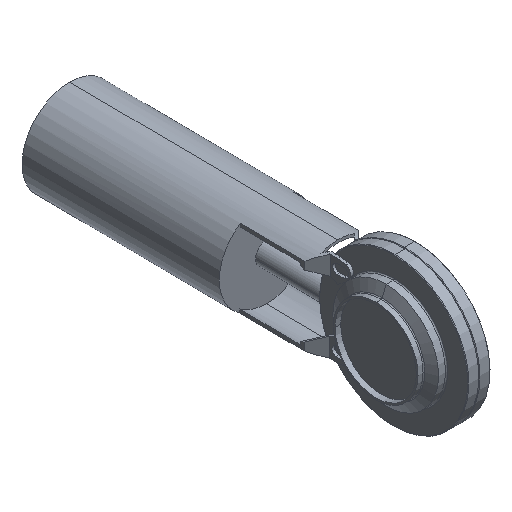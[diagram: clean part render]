
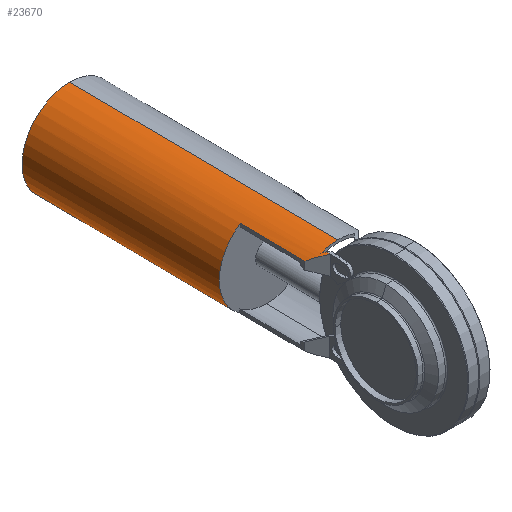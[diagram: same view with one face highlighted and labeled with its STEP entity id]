
A CAD part, isometric view. The second image highlights one B-rep face of the part: STEP entity #23670.
In plain terms, the highlighted cylindrical face has radius 42.5 mm (diameter 85 mm), a partial arc.
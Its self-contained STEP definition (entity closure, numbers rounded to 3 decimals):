
#990=CARTESIAN_POINT('',(-63.381,-188.914,
-44.596));
#1000=VERTEX_POINT('',#990);
#1030=CARTESIAN_POINT('',(-28.306,-212.914,
-44.596));
#1040=DIRECTION('',(0.,0.,1.));
#1050=DIRECTION('',(1.,0.,0.));
#1060=AXIS2_PLACEMENT_3D('',#1030,#1040,#1050);
#1070=CIRCLE('',#1060,42.5);
#1080=CARTESIAN_POINT('',(6.769,-188.914,
-44.596));
#1090=VERTEX_POINT('',#1080);
#1100=EDGE_CURVE('',#1090,#1000,#1070,.T.);
#1720=CARTESIAN_POINT('',(12.314,-200.414,
24.897));
#1730=VERTEX_POINT('',#1720);
#1760=CARTESIAN_POINT('',(12.314,-200.414,
-241.458));
#1770=DIRECTION('',(0.,0.,1.));
#1780=VECTOR('',#1770,1.);
#1790=LINE('',#1760,#1780);
#4150=CARTESIAN_POINT('',(12.314,-200.414,
21.362));
#4160=VERTEX_POINT('',#4150);
#4190=CARTESIAN_POINT('',(-28.306,-212.914,
33.862));
#4200=DIRECTION('',(0.,-0.707,-0.707));
#4210=DIRECTION('',(0.,0.707,-0.707));
#4220=AXIS2_PLACEMENT_3D('',#4190,#4200,#4210);
#4230=ELLIPSE('',#4220,60.104,42.5);
#4240=CARTESIAN_POINT('',(11.437,-197.856,
18.804));
#4250=VERTEX_POINT('',#4240);
#4260=EDGE_CURVE('',#4250,#4160,#4230,.T.);
#4730=CARTESIAN_POINT('',(6.769,-188.914,
13.397));
#4740=VERTEX_POINT('',#4730);
#5020=CARTESIAN_POINT('',(6.769,-188.914,
-241.458));
#5030=DIRECTION('',(0.,0.,1.));
#5040=VECTOR('',#5030,1.);
#5050=LINE('',#5020,#5040);
#5060=EDGE_CURVE('',#1090,#4740,#5050,.T.);
#13540=CARTESIAN_POINT('',(-28.306,-212.914,
18.804));
#13550=DIRECTION('',(0.,0.,1.));
#13560=DIRECTION('',(1.,0.,0.));
#13570=AXIS2_PLACEMENT_3D('',#13540,#13550,#13560);
#13580=CIRCLE('',#13570,42.5);
#13590=CARTESIAN_POINT('',(14.194,-212.914,
18.804));
#13600=VERTEX_POINT('',#13590);
#13610=EDGE_CURVE('',#13600,#4250,#13580,.T.);
#17310=EDGE_CURVE('',#4160,#1730,#1790,.T.);
#17430=CARTESIAN_POINT('',(-28.306,-212.914,
37.397));
#17440=DIRECTION('',(0.,0.707,0.707));
#17450=DIRECTION('',(0.,-0.707,0.707));
#17460=AXIS2_PLACEMENT_3D('',#17430,#17440,#17450);
#17470=ELLIPSE('',#17460,60.104,42.5);
#17480=EDGE_CURVE('',#1730,#4740,#17470,.T.);
#22250=CARTESIAN_POINT('',(-63.381,-188.914,
-241.458));
#22260=DIRECTION('',(0.,0.,1.));
#22270=VECTOR('',#22260,1.);
#22280=LINE('',#22250,#22270);
#22290=CARTESIAN_POINT('',(-63.381,-188.914,
13.397));
#22300=VERTEX_POINT('',#22290);
#22310=EDGE_CURVE('',#1000,#22300,#22280,.T.);
#22690=CARTESIAN_POINT('',(-28.306,-212.914,
-44.596));
#22700=DIRECTION('',(0.,0.,1.));
#22710=DIRECTION('',(-1.,0.,0.));
#22720=AXIS2_PLACEMENT_3D('',#22690,#22700,#22710);
#22730=CYLINDRICAL_SURFACE('',#22720,42.5);
#22740=ORIENTED_EDGE('',*,*,#4260,.F.);
#22750=ORIENTED_EDGE('',*,*,#17310,.F.);
#22760=ORIENTED_EDGE('',*,*,#17480,.F.);
#22770=ORIENTED_EDGE('',*,*,#5060,.T.);
#22780=ORIENTED_EDGE('',*,*,#1100,.F.);
#22790=ORIENTED_EDGE('',*,*,#22310,.F.);
#22800=CARTESIAN_POINT('',(-28.306,-212.914,
37.397));
#22810=DIRECTION('',(0.,-0.707,-0.707));
#22820=DIRECTION('',(0.,-0.707,0.707));
#22830=AXIS2_PLACEMENT_3D('',#22800,#22810,#22820);
#22840=ELLIPSE('',#22830,60.104,42.5);
#22850=CARTESIAN_POINT('',(-68.926,-200.414,
24.897));
#22860=VERTEX_POINT('',#22850);
#22870=EDGE_CURVE('',#22860,#22300,#22840,.T.);
#22880=ORIENTED_EDGE('',*,*,#22870,.T.);
#22890=CARTESIAN_POINT('',(-68.926,-200.414,
-241.458));
#22900=DIRECTION('',(0.,0.,1.));
#22910=VECTOR('',#22900,1.);
#22920=LINE('',#22890,#22910);
#22930=CARTESIAN_POINT('',(-68.926,-200.414,
31.352));
#22940=VERTEX_POINT('',#22930);
#22950=EDGE_CURVE('',#22860,#22940,#22920,.T.);
#22960=ORIENTED_EDGE('',*,*,#22950,.F.);
#22970=CARTESIAN_POINT('',(-28.306,-212.914,
387.871));
#22980=DIRECTION('',(-0.994,0.,0.113));
#22990=DIRECTION('',(-0.113,0.,-0.994));
#23000=AXIS2_PLACEMENT_3D('',#22970,#22980,#22990);
#23010=ELLIPSE('',#23000,375.431,42.5);
#23020=CARTESIAN_POINT('',(-69.45,-202.267,
26.749));
#23030=VERTEX_POINT('',#23020);
#23040=EDGE_CURVE('',#22940,#23030,#23010,.T.);
#23050=ORIENTED_EDGE('',*,*,#23040,.F.);
#23060=CARTESIAN_POINT('',(-28.306,-212.914,
37.397));
#23070=DIRECTION('',(0.,0.707,0.707));
#23080=DIRECTION('',(0.,0.707,-0.707));
#23090=AXIS2_PLACEMENT_3D('',#23060,#23070,#23080);
#23100=ELLIPSE('',#23090,60.104,42.5);
#23110=CARTESIAN_POINT('',(-69.613,-202.914,
27.397));
#23120=VERTEX_POINT('',#23110);
#23130=EDGE_CURVE('',#23030,#23120,#23100,.T.);
#23140=ORIENTED_EDGE('',*,*,#23130,.F.);
#23150=CARTESIAN_POINT('',(-69.613,-202.914,
-241.458));
#23160=DIRECTION('',(0.,0.,1.));
#23170=VECTOR('',#23160,1.);
#23180=LINE('',#23150,#23170);
#23190=CARTESIAN_POINT('',(-69.613,-202.914,
23.862));
#23200=VERTEX_POINT('',#23190);
#23210=EDGE_CURVE('',#23200,#23120,#23180,.T.);
#23220=ORIENTED_EDGE('',*,*,#23210,.T.);
#23230=CARTESIAN_POINT('',(-28.306,-212.914,
33.862));
#23240=DIRECTION('',(0.,-0.707,-0.707));
#23250=DIRECTION('',(0.,-0.707,0.707));
#23260=AXIS2_PLACEMENT_3D('',#23230,#23240,#23250);
#23270=ELLIPSE('',#23260,60.104,42.5);
#23280=CARTESIAN_POINT('',(-68.049,-197.856,
18.804));
#23290=VERTEX_POINT('',#23280);
#23300=EDGE_CURVE('',#23200,#23290,#23270,.T.);
#23310=ORIENTED_EDGE('',*,*,#23300,.F.);
#23320=CARTESIAN_POINT('',(-28.306,-212.914,
18.804));
#23330=DIRECTION('',(0.,0.,1.));
#23340=DIRECTION('',(-1.,0.,0.));
#23350=AXIS2_PLACEMENT_3D('',#23320,#23330,#23340);
#23360=CIRCLE('',#23350,42.5);
#23370=CARTESIAN_POINT('',(-70.806,-212.914,
18.804));
#23380=VERTEX_POINT('',#23370);
#23390=EDGE_CURVE('',#23290,#23380,#23360,.T.);
#23400=ORIENTED_EDGE('',*,*,#23390,.F.);
#23410=CARTESIAN_POINT('',(-70.806,-212.914,
-44.596));
#23420=DIRECTION('',(0.,0.,1.));
#23430=VECTOR('',#23420,1.);
#23440=LINE('',#23410,#23430);
#23450=CARTESIAN_POINT('',(-70.806,-212.914,
-221.937));
#23460=VERTEX_POINT('',#23450);
#23470=EDGE_CURVE('',#23460,#23380,#23440,.T.);
#23480=ORIENTED_EDGE('',*,*,#23470,.T.);
#23490=CARTESIAN_POINT('',(-28.306,-212.914,
-221.937));
#23500=DIRECTION('',(0.,0.,1.));
#23510=DIRECTION('',(-1.,0.,0.));
#23520=AXIS2_PLACEMENT_3D('',#23490,#23500,#23510);
#23530=CIRCLE('',#23520,42.5);
#23540=CARTESIAN_POINT('',(14.194,-212.914,
-221.937));
#23550=VERTEX_POINT('',#23540);
#23560=EDGE_CURVE('',#23550,#23460,#23530,.T.);
#23570=ORIENTED_EDGE('',*,*,#23560,.T.);
#23580=CARTESIAN_POINT('',(14.194,-212.914,
-44.596));
#23590=DIRECTION('',(0.,0.,1.));
#23600=VECTOR('',#23590,1.);
#23610=LINE('',#23580,#23600);
#23620=EDGE_CURVE('',#23550,#13600,#23610,.T.);
#23630=ORIENTED_EDGE('',*,*,#23620,.F.);
#23640=ORIENTED_EDGE('',*,*,#13610,.F.);
#23650=EDGE_LOOP('',(#23640,#23630,#23570,#23480,#23400,#23310,#23220,
#23140,#23050,#22960,#22880,#22790,#22780,#22770,#22760,#22750,#22740));
#23660=FACE_OUTER_BOUND('',#23650,.T.);
#23670=ADVANCED_FACE('',(#23660),#22730,.T.);
